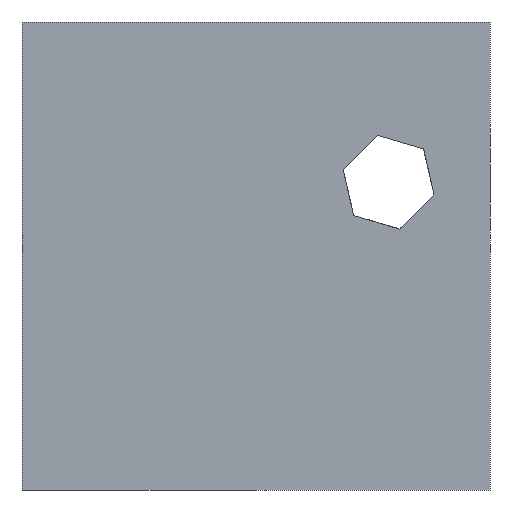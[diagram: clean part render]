
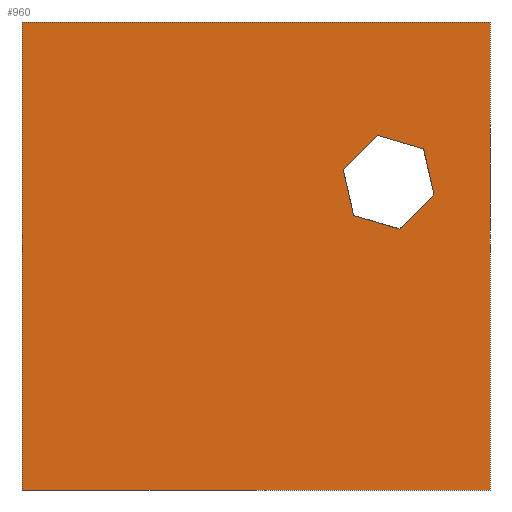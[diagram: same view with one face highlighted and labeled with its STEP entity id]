
A CAD part, left-side view. The second image highlights one B-rep face of the part: STEP entity #960.
In plain terms, the highlighted planar face has unit normal (-1, 0, 0).
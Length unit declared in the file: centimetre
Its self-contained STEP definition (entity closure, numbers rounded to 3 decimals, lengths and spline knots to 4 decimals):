
#7 = VERTEX_POINT ( 'NONE', #38 ) ;
#17 = CARTESIAN_POINT ( 'NONE',  ( 0., 119.6709, 630.3477 ) ) ;
#19 = DIRECTION ( 'NONE',  ( 0., -0.707, 0.707 ) ) ;
#38 = CARTESIAN_POINT ( 'NONE',  ( 0., 1000., 0. ) ) ;
#54 = ORIENTED_EDGE ( 'NONE', *, *, #406, .F. ) ;
#55 = DIRECTION ( 'NONE',  ( 0., 0., -1. ) ) ;
#58 = CARTESIAN_POINT ( 'NONE',  ( 0., 1000., 1000. ) ) ;
#75 = VERTEX_POINT ( 'NONE', #329 ) ;
#91 = CARTESIAN_POINT ( 'NONE',  ( 0., 1000., 0. ) ) ;
#93 = CARTESIAN_POINT ( 'NONE',  ( 0., 192.5398, 557.4788 ) ) ;
#103 = VERTEX_POINT ( 'NONE', #945 ) ;
#123 = LINE ( 'NONE', #935, #1183 ) ;
#125 = VECTOR ( 'NONE', #477, 100. ) ;
#131 = ORIENTED_EDGE ( 'NONE', *, *, #566, .F. ) ;
#164 = CARTESIAN_POINT ( 'NONE',  ( 0., 313.7101, 685.0425 ) ) ;
#166 = CARTESIAN_POINT ( 'NONE',  ( 0., 291.405, 586.6718 ) ) ;
#177 = CARTESIAN_POINT ( 'NONE',  ( 0., 1000., 1000. ) ) ;
#180 = ORIENTED_EDGE ( 'NONE', *, *, #911, .F. ) ;
#197 = LINE ( 'NONE', #602, #434 ) ;
#251 = CARTESIAN_POINT ( 'NONE',  ( 0., 0., 1000. ) ) ;
#266 = DIRECTION ( 'NONE',  ( 0., -0.221, -0.975 ) ) ;
#290 = PLANE ( 'NONE',  #858 ) ;
#297 = LINE ( 'NONE', #998, #1228 ) ;
#306 = ORIENTED_EDGE ( 'NONE', *, *, #810, .F. ) ;
#310 = DIRECTION ( 'NONE',  ( 0., -1., 0. ) ) ;
#329 = CARTESIAN_POINT ( 'NONE',  ( 0., 0., 0. ) ) ;
#356 = LINE ( 'NONE', #563, #1179 ) ;
#357 = CARTESIAN_POINT ( 'NONE',  ( 0., 291.405, 586.6718 ) ) ;
#365 = DIRECTION ( 'NONE',  ( 0., 0.707, -0.707 ) ) ;
#381 = LINE ( 'NONE', #58, #1114 ) ;
#405 = DIRECTION ( 'NONE',  ( 0., 0., -1. ) ) ;
#406 = EDGE_CURVE ( 'NONE', #696, #1214, #123, .T. ) ;
#411 = VECTOR ( 'NONE', #55, 100. ) ;
#434 = VECTOR ( 'NONE', #912, 100. ) ;
#472 = VERTEX_POINT ( 'NONE', #251 ) ;
#477 = DIRECTION ( 'NONE',  ( 0., -0.959, -0.283 ) ) ;
#479 = LINE ( 'NONE', #1104, #866 ) ;
#498 = DIRECTION ( 'NONE',  ( 1., 0., 0. ) ) ;
#539 = ORIENTED_EDGE ( 'NONE', *, *, #818, .T. ) ;
#554 = CARTESIAN_POINT ( 'NONE',  ( 0., 0., 1000. ) ) ;
#563 = CARTESIAN_POINT ( 'NONE',  ( 0., 313.7101, 685.0425 ) ) ;
#566 = EDGE_CURVE ( 'NONE', #863, #696, #867, .T. ) ;
#597 = VERTEX_POINT ( 'NONE', #177 ) ;
#602 = CARTESIAN_POINT ( 'NONE',  ( 0., 1000., 1000. ) ) ;
#603 = ORIENTED_EDGE ( 'NONE', *, *, #1226, .F. ) ;
#613 = ORIENTED_EDGE ( 'NONE', *, *, #1014, .T. ) ;
#657 = ORIENTED_EDGE ( 'NONE', *, *, #744, .F. ) ;
#661 = EDGE_CURVE ( 'NONE', #906, #103, #479, .T. ) ;
#680 = DIRECTION ( 'NONE',  ( 0., 0.221, 0.975 ) ) ;
#683 = VECTOR ( 'NONE', #365, 100. ) ;
#693 = CARTESIAN_POINT ( 'NONE',  ( 0., 1000., 1000. ) ) ;
#696 = VERTEX_POINT ( 'NONE', #93 ) ;
#699 = LINE ( 'NONE', #91, #707 ) ;
#707 = VECTOR ( 'NONE', #310, 100. ) ;
#744 = EDGE_CURVE ( 'NONE', #1214, #906, #297, .T. ) ;
#752 = EDGE_LOOP ( 'NONE', ( #613, #603, #1202, #539 ) ) ;
#760 = EDGE_CURVE ( 'NONE', #597, #472, #197, .T. ) ;
#762 = LINE ( 'NONE', #1071, #683 ) ;
#810 = EDGE_CURVE ( 'NONE', #1249, #863, #356, .T. ) ;
#818 = EDGE_CURVE ( 'NONE', #597, #7, #381, .T. ) ;
#833 = ORIENTED_EDGE ( 'NONE', *, *, #661, .F. ) ;
#858 = AXIS2_PLACEMENT_3D ( 'NONE', #693, #498, #405 ) ;
#863 = VERTEX_POINT ( 'NONE', #166 ) ;
#866 = VECTOR ( 'NONE', #1305, 100. ) ;
#867 = LINE ( 'NONE', #357, #125 ) ;
#897 = CARTESIAN_POINT ( 'NONE',  ( 0., 141.976, 728.7183 ) ) ;
#906 = VERTEX_POINT ( 'NONE', #897 ) ;
#911 = EDGE_CURVE ( 'NONE', #103, #1249, #762, .T. ) ;
#912 = DIRECTION ( 'NONE',  ( 0., -1., 0. ) ) ;
#916 = FACE_BOUND ( 'NONE', #1267, .T. ) ;
#935 = CARTESIAN_POINT ( 'NONE',  ( 0., 192.5398, 557.4788 ) ) ;
#945 = CARTESIAN_POINT ( 'NONE',  ( 0., 240.8412, 757.9113 ) ) ;
#960 = ADVANCED_FACE ( 'NONE', ( #916, #1222 ), #290, .F. ) ;
#998 = CARTESIAN_POINT ( 'NONE',  ( 0., 119.6709, 630.3477 ) ) ;
#1014 = EDGE_CURVE ( 'NONE', #7, #75, #699, .T. ) ;
#1071 = CARTESIAN_POINT ( 'NONE',  ( 0., 240.8412, 757.9113 ) ) ;
#1076 = LINE ( 'NONE', #554, #411 ) ;
#1084 = DIRECTION ( 'NONE',  ( 0., 0., -1. ) ) ;
#1104 = CARTESIAN_POINT ( 'NONE',  ( 0., 141.976, 728.7183 ) ) ;
#1114 = VECTOR ( 'NONE', #1084, 100. ) ;
#1179 = VECTOR ( 'NONE', #266, 100. ) ;
#1183 = VECTOR ( 'NONE', #19, 100. ) ;
#1202 = ORIENTED_EDGE ( 'NONE', *, *, #760, .F. ) ;
#1214 = VERTEX_POINT ( 'NONE', #17 ) ;
#1222 = FACE_OUTER_BOUND ( 'NONE', #752, .T. ) ;
#1226 = EDGE_CURVE ( 'NONE', #472, #75, #1076, .T. ) ;
#1228 = VECTOR ( 'NONE', #680, 100. ) ;
#1249 = VERTEX_POINT ( 'NONE', #164 ) ;
#1267 = EDGE_LOOP ( 'NONE', ( #180, #833, #657, #54, #131, #306 ) ) ;
#1305 = DIRECTION ( 'NONE',  ( 0., 0.959, 0.283 ) ) ;
